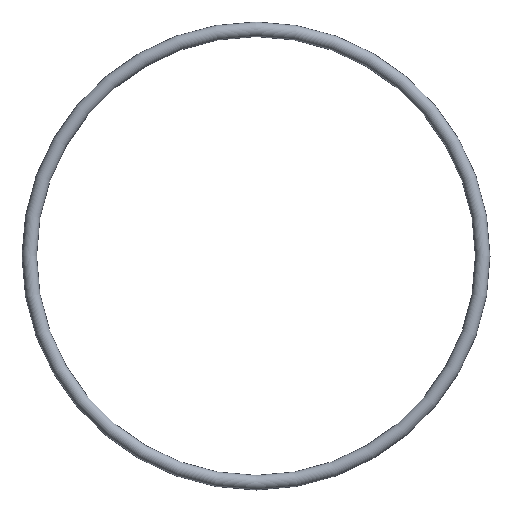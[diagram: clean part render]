
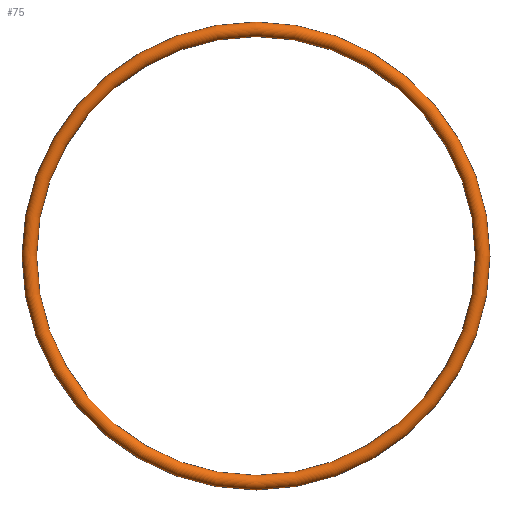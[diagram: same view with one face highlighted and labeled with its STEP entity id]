
A CAD part, front view. The second image highlights one B-rep face of the part: STEP entity #75.
In plain terms, the highlighted toroidal (fillet/blend) face has major radius 23.25 mm and minor radius 0.75 mm.
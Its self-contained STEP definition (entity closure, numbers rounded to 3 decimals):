
#75 = ADVANCED_FACE( '', ( #77 ), #78, .T. );
#77 = FACE_BOUND( '', #79, .T. );
#78 = TOROIDAL_SURFACE( '', #80, 23.25, 0.75 );
#79 = VERTEX_LOOP( '', #81 );
#80 = AXIS2_PLACEMENT_3D( '', #82, #83, #84 );
#81 = VERTEX_POINT( '', #85 );
#82 = CARTESIAN_POINT( '', ( 0., 0., 0. ) );
#83 = DIRECTION( '', ( 0., -1., 0. ) );
#84 = DIRECTION( '', ( 0., 0., -1. ) );
#85 = CARTESIAN_POINT( '', ( 0., 0., -24. ) );
